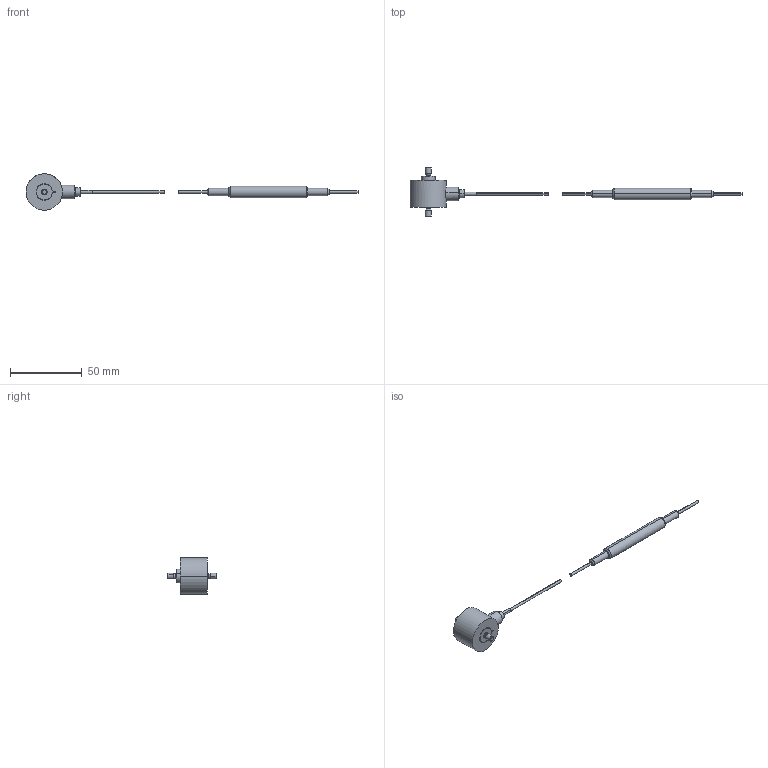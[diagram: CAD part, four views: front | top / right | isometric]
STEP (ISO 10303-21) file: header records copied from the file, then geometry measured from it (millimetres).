
FILE_DESCRIPTION(('STEP AP203'),'1');
FILE_NAME('C:/TPO v2/SharedFS/Outgoing/burster_8432-5020-v015_dk0lsrz2m8ub64m2lrkddcoz6.stp','2013-08-27T17:23:15',('TraceParts'),('TraceParts S.A.'),'XStep 1.0',' ',' ');
FILE_SCHEMA(('CONFIG_CONTROL_DESIGN'));
Length unit declared in the file: millimetre
Products named in the file (2): 1; 2
Bounding box: 231.1 x 34.61 x 25.4 mm (x, y, z)
Volume: 14250 mm3; surface area: 5734.2 mm2
Topology: 2 solids, 2 shells, 97 faces, 219 edges, 140 vertices
Faces by surface type: cylinder 40, cone 24, plane 20, torus 12, sphere 1
Entity records: 2978 total; most frequent: CARTESIAN_POINT 597, DIRECTION 549, ORIENTED_EDGE 438, AXIS2_PLACEMENT_3D 241, EDGE_CURVE 219, CIRCLE 142, VERTEX_POINT 140, EDGE_LOOP 111
